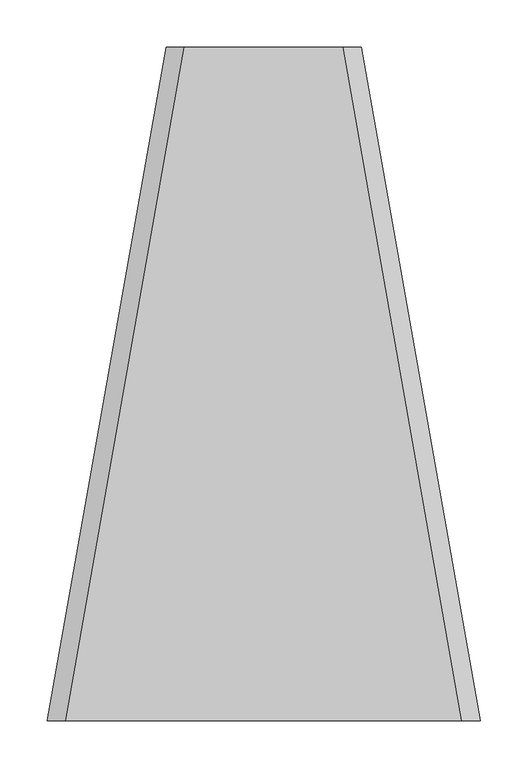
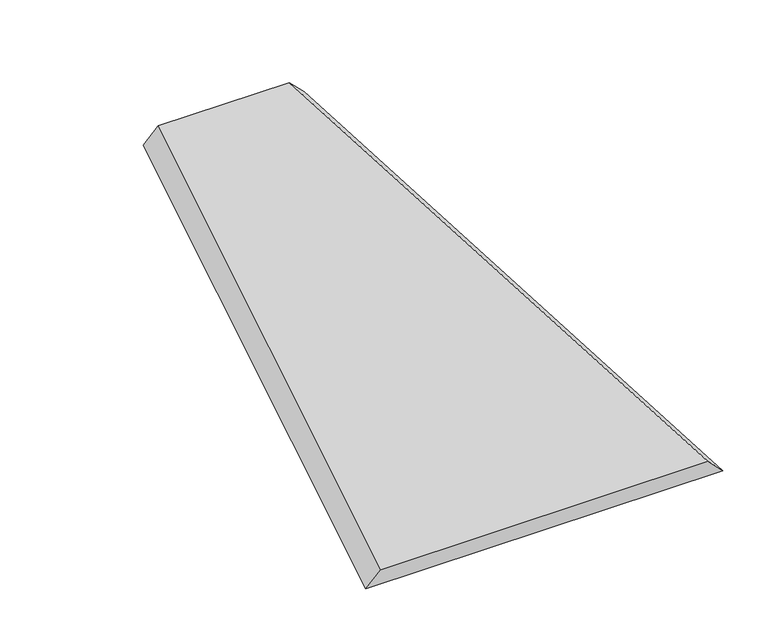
"""IFC4 building model written with IfcOpenShell, lengths in millimetres: proxy geometry, GRADIENT^TABLE 7_PYRAMID BASES-END BASE RIGHT SIDE."""

from ifc_helpers import new_model, si_unit, origin, place, context, project, spatial, faceted_brep, source, transform, mapped, element, save


def generic_models_597a183f(model_context):
    return source(origin(), model_context, "Body", "Brep", [
        faceted_brep([(914.4, -711.2, -1066.8), (788.9962513, 0.0, -941.3962513), (769.6523744, 0.0, -922.0523744), (895.056123, -711.2, -1047.456123), (457.2, -711.2, -1066.8), (582.6037487, 0.0, -941.3962513), (601.9476256, 0.0, -922.0523744), (476.543877, -711.2, -1047.456123)], [[[0, 1, 2, 3]], [[1, 0, 4, 5]], [[2, 1, 5, 6]], [[3, 2, 6, 7]], [[0, 3, 7, 4]], [[5, 4, 7, 6]]]),
    ])


if __name__ == "__main__":
    model = new_model("IFC4")
    model_context = context("Model", 3, world=origin())
    ifc_project = project(units=[si_unit("LENGTHUNIT", "METRE", prefix="MILLI")], contexts=[model_context])
    site = spatial("IfcSite", under=ifc_project)
    building = spatial("IfcBuilding", under=site)
    placement = place(None, origin())
    generic_models_shape = generic_models_597a183f(model_context)
    element("IfcBuildingElementProxy", 1, Name="GRADIENT^TABLE 7_PYRAMID BASES-END BASE RIGHT SIDE", ObjectType="GRADIENT^TABLE 7_PYRAMID BASES-END BASE RIGHT SIDE", at=placement, inside=building, context=model_context, shape_type="MappedRepresentation", body=[
        mapped(generic_models_shape, transform((0.0, 0.0, 0.0), x_axis=(1.0, 0.0, 0.0), y_axis=(0.0, 1.0, 0.0), z_axis=(0.0, 0.0, 1.0))),
    ])
    save(model, "model.ifc")
